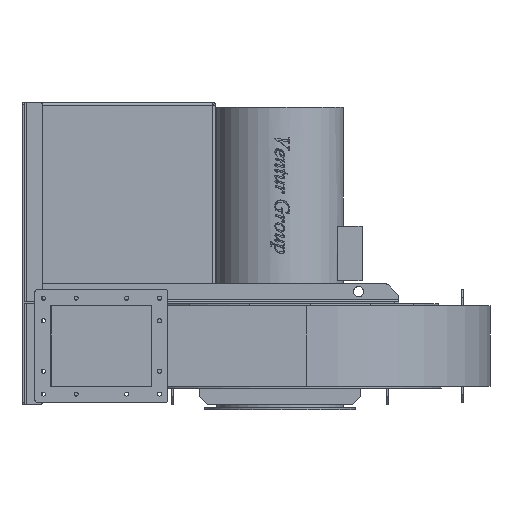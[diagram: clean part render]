
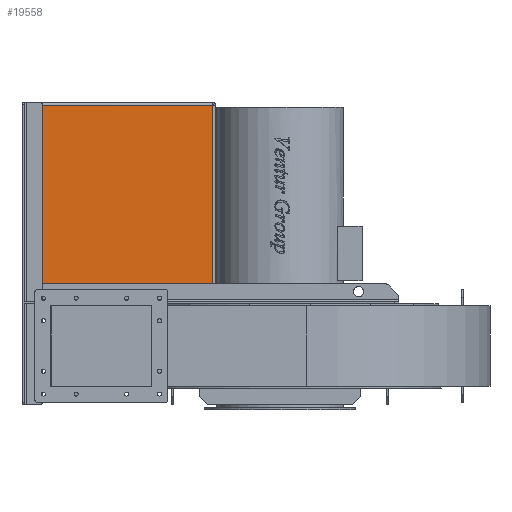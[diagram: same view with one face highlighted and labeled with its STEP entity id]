
A CAD part, front view. The second image highlights one B-rep face of the part: STEP entity #19558.
In plain terms, the highlighted planar face has unit normal (0, -1, 0).
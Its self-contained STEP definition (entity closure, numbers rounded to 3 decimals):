
#189=PLANE('',#20316);
#2230=FACE_OUTER_BOUND('',#3354,.T.);
#3354=EDGE_LOOP('',(#17100,#17101,#17102,#17103,#17104,#17105,#17106,#17107,
#17108));
#4594=LINE('',#42377,#6085);
#4694=LINE('',#42679,#6185);
#4742=LINE('',#42801,#6233);
#4744=LINE('',#42807,#6235);
#4749=LINE('',#42818,#6240);
#4750=LINE('',#42820,#6241);
#4751=LINE('',#42821,#6242);
#4752=LINE('',#42822,#6243);
#4753=LINE('',#42823,#6244);
#6085=VECTOR('',#22425,10.);
#6185=VECTOR('',#22705,10.);
#6233=VECTOR('',#22831,10.);
#6235=VECTOR('',#22841,10.);
#6240=VECTOR('',#22856,10.);
#6241=VECTOR('',#22857,10.);
#6242=VECTOR('',#22858,10.);
#6243=VECTOR('',#22859,10.);
#6244=VECTOR('',#22860,10.);
#8997=VERTEX_POINT('',#42226);
#9039=VERTEX_POINT('',#42347);
#9040=VERTEX_POINT('',#42349);
#9051=VERTEX_POINT('',#42374);
#9052=VERTEX_POINT('',#42376);
#9164=VERTEX_POINT('',#42678);
#9199=VERTEX_POINT('',#42800);
#9200=VERTEX_POINT('',#42817);
#9201=VERTEX_POINT('',#42819);
#11674=EDGE_CURVE('',#9051,#9052,#4594,.T.);
#11825=EDGE_CURVE('',#9164,#9040,#4694,.T.);
#11888=EDGE_CURVE('',#9199,#9164,#4742,.T.);
#11892=EDGE_CURVE('',#9199,#9039,#4744,.T.);
#11897=EDGE_CURVE('',#9040,#9200,#4749,.T.);
#11898=EDGE_CURVE('',#9200,#9201,#4750,.T.);
#11899=EDGE_CURVE('',#9201,#8997,#4751,.T.);
#11900=EDGE_CURVE('',#9052,#8997,#4752,.T.);
#11901=EDGE_CURVE('',#9051,#9039,#4753,.T.);
#17100=ORIENTED_EDGE('',*,*,#11892,.F.);
#17101=ORIENTED_EDGE('',*,*,#11888,.T.);
#17102=ORIENTED_EDGE('',*,*,#11825,.T.);
#17103=ORIENTED_EDGE('',*,*,#11897,.T.);
#17104=ORIENTED_EDGE('',*,*,#11898,.T.);
#17105=ORIENTED_EDGE('',*,*,#11899,.T.);
#17106=ORIENTED_EDGE('',*,*,#11900,.F.);
#17107=ORIENTED_EDGE('',*,*,#11674,.F.);
#17108=ORIENTED_EDGE('',*,*,#11901,.T.);
#19558=ADVANCED_FACE('',(#2230),#189,.T.);
#20316=AXIS2_PLACEMENT_3D('',#42816,#22854,#22855);
#22425=DIRECTION('',(-1.,0.,0.));
#22705=DIRECTION('',(1.,0.,0.));
#22831=DIRECTION('',(0.,0.,1.));
#22841=DIRECTION('',(1.,0.,0.));
#22854=DIRECTION('center_axis',(0.,-1.,0.));
#22855=DIRECTION('ref_axis',(-1.,0.,0.));
#22856=DIRECTION('',(0.,0.,1.));
#22857=DIRECTION('',(-1.,0.,0.));
#22858=DIRECTION('',(0.,0.,-1.));
#22859=DIRECTION('',(-1.,0.,0.));
#22860=DIRECTION('',(0.,0.,1.));
#42226=CARTESIAN_POINT('',(-590.,-170.,200.));
#42347=CARTESIAN_POINT('',(-168.,-170.,210.));
#42349=CARTESIAN_POINT('',(-168.,-170.,250.));
#42374=CARTESIAN_POINT('',(-168.,-170.,200.));
#42376=CARTESIAN_POINT('',(-362.077,-170.,200.));
#42377=CARTESIAN_POINT('',(-357.717,-170.,200.));
#42678=CARTESIAN_POINT('',(-589.,-170.,250.));
#42679=CARTESIAN_POINT('',(-52.238,-170.,250.));
#42800=CARTESIAN_POINT('',(-589.,-170.,210.));
#42801=CARTESIAN_POINT('',(-589.,-170.,337.5));
#42807=CARTESIAN_POINT('',(-147.,-170.,210.));
#42816=CARTESIAN_POINT('Origin',(-399.476,-170.,450.));
#42817=CARTESIAN_POINT('',(-168.,-170.,692.));
#42818=CARTESIAN_POINT('',(-168.,-170.,450.));
#42819=CARTESIAN_POINT('',(-590.,-170.,692.));
#42820=CARTESIAN_POINT('',(-283.738,-170.,692.));
#42821=CARTESIAN_POINT('',(-590.,-170.,200.));
#42822=CARTESIAN_POINT('',(-168.,-170.,200.));
#42823=CARTESIAN_POINT('',(-168.,-170.,450.));
